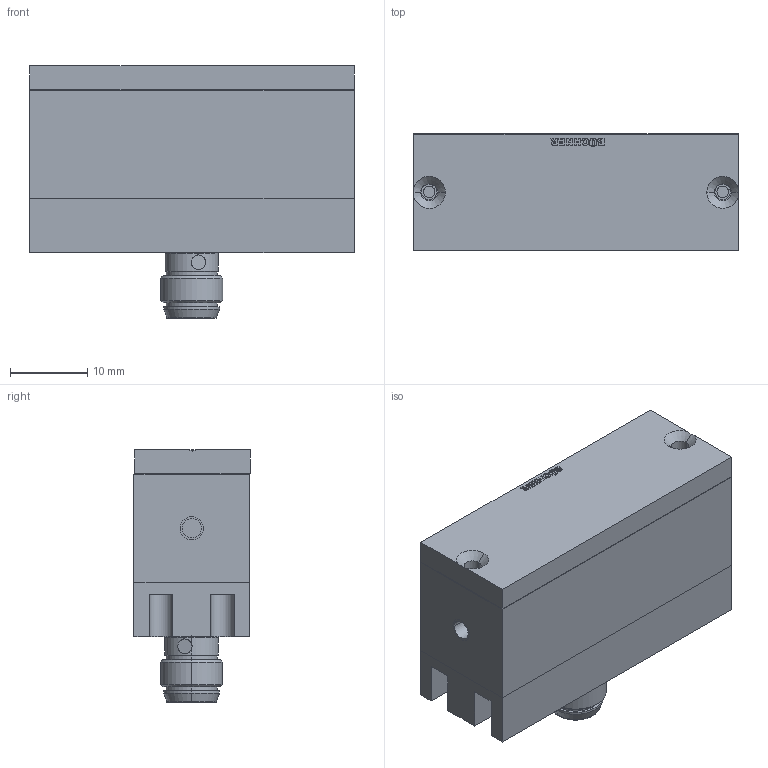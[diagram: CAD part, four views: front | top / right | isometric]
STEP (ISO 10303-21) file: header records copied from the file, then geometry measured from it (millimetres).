
FILE_DESCRIPTION(('STEP AP214'),'1');
FILE_NAME('use-komplett-Kundenzeichnung.stp','2015-05-06T12:56:51',(' '),(' '),'Spatial InterOp 3D',' ',' ');
FILE_SCHEMA(('automotive_design'));
Length unit declared in the file: millimetre
Products named in the file (6): Logo-C-Gehäuse-komplett-Kundenzeichnung; Logo-C-Gehäuse-Oberteil; Logo-C-Gehäuse-Unterteil; Logo-C-Gehäuse-Unterteil Geometry; Logo-C-Gehäuse-Front; M8-Einbaustecker.4
Assembly tree (5 placements, depth 3):
  Logo-C-Gehäuse-komplett-Kundenzeichnung
    Logo-C-Gehäuse-Oberteil
    Logo-C-Gehäuse-Unterteil
      Logo-C-Gehäuse-Unterteil Geometry
      Logo-C-Gehäuse-Front
      M8-Einbaustecker.4
Bounding box: 42 x 15.04 x 32.7 mm (x, y, z)
Volume: 9158.9 mm3; surface area: 9646.6 mm2
Topology: 4 solids, 31 shells, 356 faces, 939 edges, 650 vertices
Faces by surface type: plane 168, cylinder 132, extrusion 22, cone 18, bspline 8, torus 4, sphere 4
Entity records: 15208 total; most frequent: CARTESIAN_POINT 3318, DIRECTION 1816, ORIENTED_EDGE 1754, EDGE_CURVE 931, AXIS2_PLACEMENT_3D 656, VERTEX_POINT 650, VECTOR 504, LINE 482
